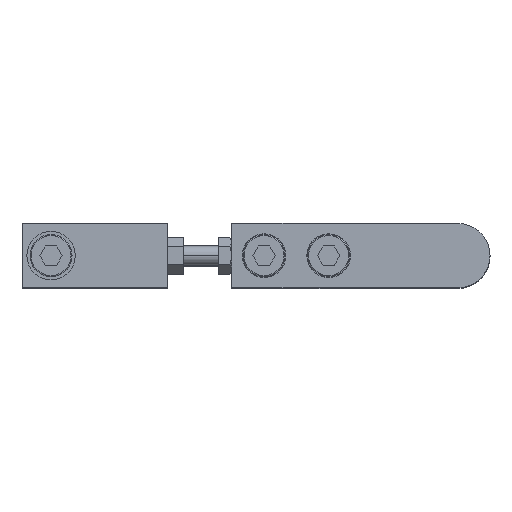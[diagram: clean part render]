
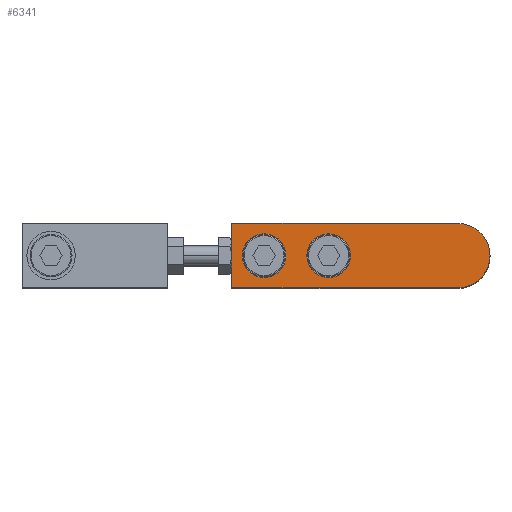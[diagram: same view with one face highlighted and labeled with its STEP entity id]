
A CAD part, top view. The second image highlights one B-rep face of the part: STEP entity #6341.
In plain terms, the highlighted planar face has unit normal (0, 0, 1) as drawn and (0, 0, -1) by its records, which use the part's own axes.
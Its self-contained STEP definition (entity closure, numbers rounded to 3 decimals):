
#27 = DIRECTION ( 'NONE',  ( 0., 0., -1. ) ) ;
#31 = CIRCLE ( 'NONE', #1377, 10. ) ;
#37 = VECTOR ( 'NONE', #3448, 1000. ) ;
#182 = DIRECTION ( 'NONE',  ( 1., 0., 0. ) ) ;
#201 = CIRCLE ( 'NONE', #515, 6.75 ) ;
#341 = VERTEX_POINT ( 'NONE', #5919 ) ;
#352 = ORIENTED_EDGE ( 'NONE', *, *, #6032, .F. ) ;
#400 = AXIS2_PLACEMENT_3D ( 'NONE', #2266, #6366, #2859 ) ;
#411 = CIRCLE ( 'NONE', #2455, 6.75 ) ;
#507 = EDGE_CURVE ( 'NONE', #1762, #341, #6416, .T. ) ;
#515 = AXIS2_PLACEMENT_3D ( 'NONE', #3833, #2091, #2133 ) ;
#723 = LINE ( 'NONE', #855, #5186 ) ;
#855 = CARTESIAN_POINT ( 'NONE',  ( 0., 10., -5. ) ) ;
#957 = DIRECTION ( 'NONE',  ( 0., 1., 0. ) ) ;
#1377 = AXIS2_PLACEMENT_3D ( 'NONE', #5039, #3852, #1599 ) ;
#1441 = ORIENTED_EDGE ( 'NONE', *, *, #3062, .F. ) ;
#1472 = EDGE_CURVE ( 'NONE', #341, #3124, #723, .T. ) ;
#1481 = ORIENTED_EDGE ( 'NONE', *, *, #507, .F. ) ;
#1504 = FACE_OUTER_BOUND ( 'NONE', #3354, .T. ) ;
#1511 = LINE ( 'NONE', #2814, #37 ) ;
#1545 = AXIS2_PLACEMENT_3D ( 'NONE', #4258, #7241, #182 ) ;
#1599 = DIRECTION ( 'NONE',  ( 1., 0., 0. ) ) ;
#1681 = ORIENTED_EDGE ( 'NONE', *, *, #1472, .F. ) ;
#1716 = CARTESIAN_POINT ( 'NONE',  ( 66.75, 0., -5. ) ) ;
#1725 = CARTESIAN_POINT ( 'NONE',  ( 0., -10., -5. ) ) ;
#1732 = VERTEX_POINT ( 'NONE', #1716 ) ;
#1743 = ORIENTED_EDGE ( 'NONE', *, *, #2299, .F. ) ;
#1762 = VERTEX_POINT ( 'NONE', #4497 ) ;
#1995 = CARTESIAN_POINT ( 'NONE',  ( -10., 0., -5. ) ) ;
#1996 = PLANE ( 'NONE',  #7074 ) ;
#2084 = DIRECTION ( 'NONE',  ( 1., 0., 0. ) ) ;
#2091 = DIRECTION ( 'NONE',  ( 0., 0., -1. ) ) ;
#2133 = DIRECTION ( 'NONE',  ( -1., 0., 0. ) ) ;
#2266 = CARTESIAN_POINT ( 'NONE',  ( 40., 0., -5. ) ) ;
#2299 = EDGE_CURVE ( 'NONE', #6200, #6573, #5259, .T. ) ;
#2455 = AXIS2_PLACEMENT_3D ( 'NONE', #3890, #5600, #2692 ) ;
#2692 = DIRECTION ( 'NONE',  ( -1., 0., 0. ) ) ;
#2814 = CARTESIAN_POINT ( 'NONE',  ( 0., -10., -5. ) ) ;
#2859 = DIRECTION ( 'NONE',  ( -1., 0., 0. ) ) ;
#2953 = DIRECTION ( 'NONE',  ( -1., 0., 0. ) ) ;
#3062 = EDGE_CURVE ( 'NONE', #1732, #6244, #201, .T. ) ;
#3124 = VERTEX_POINT ( 'NONE', #7379 ) ;
#3354 = EDGE_LOOP ( 'NONE', ( #5971, #1681, #1481, #352, #5967 ) ) ;
#3448 = DIRECTION ( 'NONE',  ( 1., 0., 0. ) ) ;
#3463 = EDGE_CURVE ( 'NONE', #3124, #7511, #7467, .T. ) ;
#3665 = CIRCLE ( 'NONE', #5871, 6.75 ) ;
#3719 = ORIENTED_EDGE ( 'NONE', *, *, #5905, .F. ) ;
#3827 = VERTEX_POINT ( 'NONE', #1725 ) ;
#3833 = CARTESIAN_POINT ( 'NONE',  ( 60., 0., -5. ) ) ;
#3852 = DIRECTION ( 'NONE',  ( 0., 0., 1. ) ) ;
#3890 = CARTESIAN_POINT ( 'NONE',  ( 60., 0., -5. ) ) ;
#4063 = FACE_BOUND ( 'NONE', #4320, .T. ) ;
#4142 = CARTESIAN_POINT ( 'NONE',  ( 33.25, 0., -5. ) ) ;
#4258 = CARTESIAN_POINT ( 'NONE',  ( 0., 0., -5. ) ) ;
#4313 = DIRECTION ( 'NONE',  ( -1., 0., 0. ) ) ;
#4320 = EDGE_LOOP ( 'NONE', ( #4665, #1743 ) ) ;
#4414 = FACE_BOUND ( 'NONE', #5706, .T. ) ;
#4497 = CARTESIAN_POINT ( 'NONE',  ( 70., -10., -5. ) ) ;
#4665 = ORIENTED_EDGE ( 'NONE', *, *, #5051, .F. ) ;
#4793 = CARTESIAN_POINT ( 'NONE',  ( 53.25, 0., -5. ) ) ;
#4933 = CARTESIAN_POINT ( 'NONE',  ( 70., 10., -5. ) ) ;
#5039 = CARTESIAN_POINT ( 'NONE',  ( 0., 0., -5. ) ) ;
#5051 = EDGE_CURVE ( 'NONE', #6573, #6200, #3665, .T. ) ;
#5186 = VECTOR ( 'NONE', #4313, 1000. ) ;
#5259 = CIRCLE ( 'NONE', #400, 6.75 ) ;
#5462 = CARTESIAN_POINT ( 'NONE',  ( 0., 0., -5. ) ) ;
#5530 = DIRECTION ( 'NONE',  ( 0., 0., 1. ) ) ;
#5600 = DIRECTION ( 'NONE',  ( 0., 0., -1. ) ) ;
#5706 = EDGE_LOOP ( 'NONE', ( #3719, #1441 ) ) ;
#5871 = AXIS2_PLACEMENT_3D ( 'NONE', #5887, #27, #2953 ) ;
#5887 = CARTESIAN_POINT ( 'NONE',  ( 40., 0., -5. ) ) ;
#5905 = EDGE_CURVE ( 'NONE', #6244, #1732, #411, .T. ) ;
#5919 = CARTESIAN_POINT ( 'NONE',  ( 70., 10., -5. ) ) ;
#5967 = ORIENTED_EDGE ( 'NONE', *, *, #6399, .F. ) ;
#5971 = ORIENTED_EDGE ( 'NONE', *, *, #3463, .F. ) ;
#6032 = EDGE_CURVE ( 'NONE', #3827, #1762, #1511, .T. ) ;
#6200 = VERTEX_POINT ( 'NONE', #6438 ) ;
#6244 = VERTEX_POINT ( 'NONE', #4793 ) ;
#6341 = ADVANCED_FACE ( 'NONE', ( #4414, #4063, #1504 ), #1996, .F. ) ;
#6366 = DIRECTION ( 'NONE',  ( 0., 0., -1. ) ) ;
#6399 = EDGE_CURVE ( 'NONE', #7511, #3827, #31, .T. ) ;
#6416 = LINE ( 'NONE', #4933, #6773 ) ;
#6438 = CARTESIAN_POINT ( 'NONE',  ( 46.75, 0., -5. ) ) ;
#6573 = VERTEX_POINT ( 'NONE', #4142 ) ;
#6773 = VECTOR ( 'NONE', #957, 1000. ) ;
#7074 = AXIS2_PLACEMENT_3D ( 'NONE', #5462, #5530, #2084 ) ;
#7241 = DIRECTION ( 'NONE',  ( 0., 0., 1. ) ) ;
#7379 = CARTESIAN_POINT ( 'NONE',  ( 0., 10., -5. ) ) ;
#7467 = CIRCLE ( 'NONE', #1545, 10. ) ;
#7511 = VERTEX_POINT ( 'NONE', #1995 ) ;
